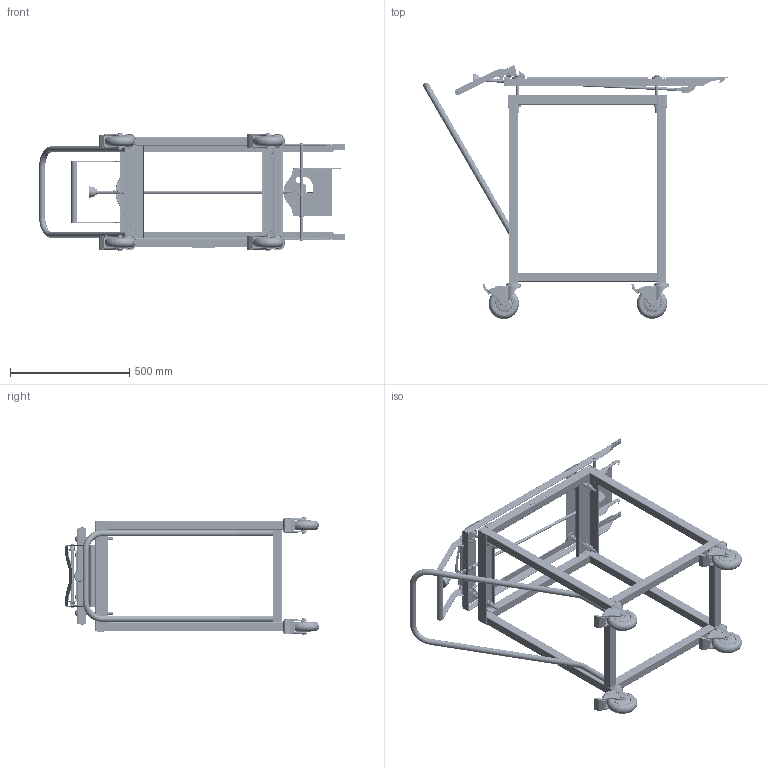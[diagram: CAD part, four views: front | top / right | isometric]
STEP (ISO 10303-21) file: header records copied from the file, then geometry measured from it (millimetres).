
FILE_DESCRIPTION (( 'STEP AP203' ), '1' );
FILE_NAME ('26AV-HC - CARRIAGE.STEP', '2025-11-10T18:13:16', ( '' ), ( '' ), 'SwSTEP 2.0', 'SolidWorks 2024', '' );
FILE_SCHEMA (( 'CONFIG_CONTROL_DESIGN' ));
Length unit declared in the file: inch
Products named in the file (32): WASHER, FLAT, 0.375 ID x 0.875 OD x 0.05 THK, 18-8SS_92141A031; 93252 - Bent Carriage Top_-01 A,C; NUT, HEX, 0.375-16_NUT, HEX, 0.375"-16, 18-8 SS UNCOATED; SPRING, COMPRESSION, 0.72 OD X 2.00 LG, 0.072 THK_9435K151; SPRING, TORSION, 180 LEFT-HAND FOR 0.500 OD_9271K322; 1.125 X 3.75 NAMEPLATE_Config1; 93254 - CARRIAGE - CATCH ROD_-01, default; EXTERNAL RETAINING RING, SIDE MOUNT, .500 OD ROD, SS_98408A138; 93297 - CARRIAGE - HOOK ROD_Config1; 93310 - Carriage Top Assembly_-01, AC; CARRIAGE BOLT, 0.500-13 X 6 LG, 18-8 SS_92356A728; 93225 - Carriage Weldment_26AV<As Machined>; 26AV-HC - CARRIAGE; RETAINING RING, EXTERNAL, 0.500 OD, 15-7SS; 93298 - CARRIAGE - HOOK_Config1; SCREW, BUTTON HEAD HEX DRIVE, 0.25-20 X 0.625 LG_92949A539; 93253 - CARRIAGE - CATCH_Config1; TUBE CONNECTING NUT, 0.87-.90 TUBE ID, 0.25-20_94290A550; CARRIAGE BOLT, 0.375-16 X 1 LG, 18-8SS_92356A624; NUT, HEX, 0.500-13, 0.470 THK, 0.875 OD, 18-8SS_91849A635; S5053-1.25SQEXP-1.5PROBL-PB-TG-iLKS_prt_Config1; 93243 - BENT CARRIAGE TOP PAD_Config1; CLEVIS ROD END, .25-28, ZINC PLATED CARBON STEEL_1583K22; 93255 - CARRIAGE - CATCH HANDLE_Config1; WASHER, FLAT, 0.500 ID x 1.062 OD X 0.095 THK, 18-8SS_WASHER, FLAT, 0.500 ID x 1.062 OD, 18-8SS NO COATING; 93309 - CARRIAGE PUSH ROD_A & C; 93256 - CARRIAGE - CATCH ROD SUPPORT_Config1; WASHER, FLAT, 0.812 ID X 1.75 OD, 18-8SS_92141A056; 1.875 HAND KNOB, 0.5-13 X .875 LENGTH_Config1; SPRING, TORSION, 180 RIGHT-HAND FOR 0.500 OD_9271K321; SPRING, COMPRESSION, 0.66 OD X 1.50 LG, 0.072 THK_9657K489; S5053-1.25SQEXP-1.5PROBL-PB-TG-iLK_prt_Config1
Assembly tree (74 placements, depth 3):
  26AV-HC - CARRIAGE
    93225 - Carriage Weldment_26AV<As Machined>
    93310 - Carriage Top Assembly_-01, AC
      93252 - Bent Carriage Top_-01 A,C
      93243 - BENT CARRIAGE TOP PAD_Config1  x2
      93309 - CARRIAGE PUSH ROD_A & C
      93297 - CARRIAGE - HOOK ROD_Config1
      93298 - CARRIAGE - HOOK_Config1
      93256 - CARRIAGE - CATCH ROD SUPPORT_Config1
      93254 - CARRIAGE - CATCH ROD_-01, default
      93253 - CARRIAGE - CATCH_Config1
      93255 - CARRIAGE - CATCH HANDLE_Config1
      1.875 HAND KNOB, 0.5-13 X .875 LENGTH_Config1
      SCREW, BUTTON HEAD HEX DRIVE, 0.25-20 X 0.625 LG_92949A539  x2
      RETAINING RING, EXTERNAL, 0.500 OD, 15-7SS  x6
      CARRIAGE BOLT, 0.375-16 X 1 LG, 18-8SS_92356A624  x2
      NUT, HEX, 0.375-16_NUT, HEX, 0.375"-16, 18-8 SS UNCOATED  x2
      WASHER, FLAT, 0.375 ID x 0.875 OD x 0.05 THK, 18-8SS_92141A031  x2
      CLEVIS ROD END, .25-28, ZINC PLATED CARBON STEEL_1583K22
      SPRING, TORSION, 180 RIGHT-HAND FOR 0.500 OD_9271K321
      SPRING, TORSION, 180 LEFT-HAND FOR 0.500 OD_9271K322
      TUBE CONNECTING NUT, 0.87-.90 TUBE ID, 0.25-20_94290A550  x2
      CARRIAGE BOLT, 0.500-13 X 6 LG, 18-8 SS_92356A728  x4
      WASHER, FLAT, 0.500 ID x 1.062 OD X 0.095 THK, 18-8SS_WASHER, FLAT, 0.500 ID x 1.062 OD, 18-8SS NO COATING  x8
      NUT, HEX, 0.500-13, 0.470 THK, 0.875 OD, 18-8SS_91849A635  x12
      WASHER, FLAT, 0.812 ID X 1.75 OD, 18-8SS_92141A056  x8
      SPRING, COMPRESSION, 0.66 OD X 1.50 LG, 0.072 THK_9657K489
      SPRING, COMPRESSION, 0.72 OD X 2.00 LG, 0.072 THK_9435K151
      EXTERNAL RETAINING RING, SIDE MOUNT, .500 OD ROD, SS_98408A138  x2
    S5053-1.25SQEXP-1.5PROBL-PB-TG-iLK_prt_Config1  x2
    S5053-1.25SQEXP-1.5PROBL-PB-TG-iLKS_prt_Config1  x2
    1.125 X 3.75 NAMEPLATE_Config1  x2
Bounding box: 1282.7 x 1065.45 x 496.09 mm (x, y, z)
Volume: 6920492.3 mm3; surface area: 3980688.1 mm2
Topology: 401 solids, 401 shells, 12345 faces, 31636 edges, 19755 vertices
Faces by surface type: plane 5032, cylinder 3742, cone 1146, bspline 1015, sphere 744, torus 666
Entity records: 278292 total; most frequent: CARTESIAN_POINT 123373, ORIENTED_EDGE 31912, DIRECTION 30443, EDGE_CURVE 15956, AXIS2_PLACEMENT_3D 10886, VERTEX_POINT 10188, VECTOR 8671, LINE 8671
